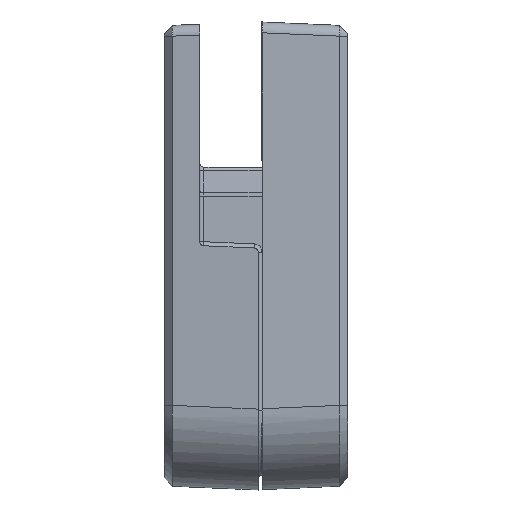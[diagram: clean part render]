
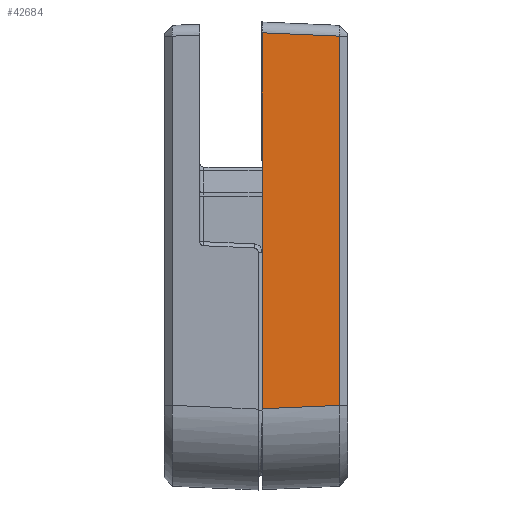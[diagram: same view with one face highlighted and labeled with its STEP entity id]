
A CAD part, left-side view. The second image highlights one B-rep face of the part: STEP entity #42684.
In plain terms, the highlighted planar face has unit normal (-0.999, -0.044, 0).
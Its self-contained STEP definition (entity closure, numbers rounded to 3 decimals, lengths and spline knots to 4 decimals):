
#7942=DIRECTION('',(0.,0.,1.));
#7943=VECTOR('',#7942,0.9207);
#7944=CARTESIAN_POINT('',(-0.0138,0.317,-1.4191));
#7945=LINE('',#7944,#7943);
#7958=CARTESIAN_POINT('',(-0.0138,0.317,-1.4191));
#10238=DIRECTION('',(0.,0.,1.));
#10239=VECTOR('',#10238,0.4723);
#10240=CARTESIAN_POINT('',(-0.0138,0.317,-0.4984));
#10241=LINE('',#10240,#10239);
#10242=DIRECTION('',(0.044,-0.998,-0.044));
#10243=VECTOR('',#10242,0.2876);
#10244=CARTESIAN_POINT('',(-0.0138,0.317,-0.0261));
#10245=LINE('',#10244,#10243);
#10246=DIRECTION('',(0.,0.,-1.));
#10247=VECTOR('',#10246,1.3679);
#10248=CARTESIAN_POINT('',(-0.0013,0.03,
-0.0387));
#10249=LINE('',#10248,#10247);
#10250=DIRECTION('',(0.044,-0.998,0.044));
#10251=VECTOR('',#10250,0.2876);
#10252=CARTESIAN_POINT('',(-0.0138,0.317,-1.4191));
#10253=LINE('',#10252,#10251);
#10318=CARTESIAN_POINT('',(-0.0013,0.03,
-0.0387));
#24950=VERTEX_POINT('',#7958);
#25138=VERTEX_POINT('',#10318);
#25141=CARTESIAN_POINT('',(-0.0013,0.03,
-1.4066));
#25142=VERTEX_POINT('',#25141);
#26712=CARTESIAN_POINT('',(-0.0138,0.317,-0.4984));
#26713=VERTEX_POINT('',#26712);
#26714=CARTESIAN_POINT('',(-0.0138,0.317,-0.0261));
#26715=VERTEX_POINT('',#26714);
#42670=CARTESIAN_POINT('',(0.,0.,-2.7387));
#42671=DIRECTION('',(-0.999,-0.044,0.));
#42672=DIRECTION('',(0.,0.,-1.));
#42673=AXIS2_PLACEMENT_3D('',#42670,#42671,#42672);
#42674=PLANE('',#42673);
#42676=ORIENTED_EDGE('',*,*,#42675,.T.);
#42678=ORIENTED_EDGE('',*,*,#42677,.T.);
#42679=ORIENTED_EDGE('',*,*,#42563,.T.);
#42680=ORIENTED_EDGE('',*,*,#42665,.F.);
#42681=ORIENTED_EDGE('',*,*,#39576,.T.);
#42682=EDGE_LOOP('',(#42676,#42678,#42679,#42680,#42681));
#42683=FACE_OUTER_BOUND('',#42682,.F.);
#42684=ADVANCED_FACE('',(#42683),#42674,.T.);
#39576=EDGE_CURVE('',#24950,#26713,#7945,.T.);
#42563=EDGE_CURVE('',#25138,#25142,#10249,.T.);
#42665=EDGE_CURVE('',#24950,#25142,#10253,.T.);
#42675=EDGE_CURVE('',#26713,#26715,#10241,.T.);
#42677=EDGE_CURVE('',#26715,#25138,#10245,.T.);
